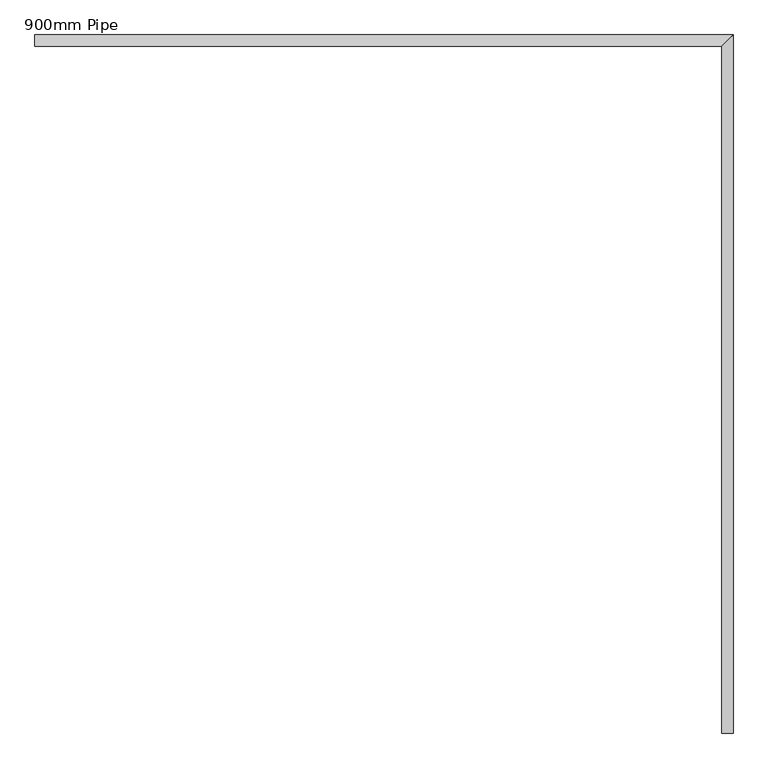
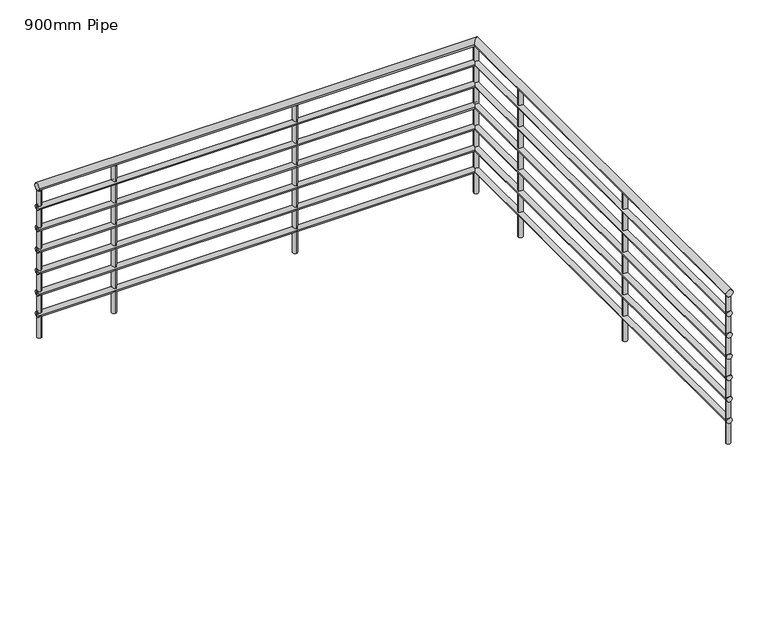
"""IFC4 building model written with IfcOpenShell, lengths in millimetres: railing geometry, 900mm Pipe."""

from ifc_helpers import new_model, si_unit, point, frame, frame_2d, origin, place, context, project, spatial, circle_curve, ellipse_curve, trimmed, segment, composite_curve, outline, extrude, source, transform, mapped, element, save
from ifc_brep_helpers import plane_surface, cylinder_surface, advanced_brep


def railing_900mm_pipe_a6d14da7(model_context):
    return source(origin(), model_context, "Body", "SolidModel", [
        advanced_brep(
        [(12022.918054, 339.8340505, 4130.0), (12062.918054, 339.8340505, 4130.0), (12022.918054, 2744.8340505, 4130.0), (12062.918054, 2784.8340505, 4130.0), (9617.918054, 2744.8340505, 4130.0), (9617.918054, 2784.8340505, 4130.0)],
        [
            (0, 1, circle_curve(frame((12042.918054, 339.8340505, 4130.0), z_axis=(0.0, -1.0, 0.0), x_axis=(1.0, 0.0, 0.0)), 20.0)),
            (1, 0, circle_curve(frame((12042.918054, 339.8340505, 4130.0), z_axis=(0.0, -1.0, 0.0), x_axis=(1.0, 0.0, 0.0)), 20.0)),
            (0, 2),
            (2, 3, ellipse_curve(frame((12042.918054, 2764.8340505, 4130.0), z_axis=(0.7071067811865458, -0.7071067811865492, 0.0), x_axis=(-0.7071067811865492, -0.7071067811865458, 0.0)), 28.2842712, 20.0)),
            (3, 1),
            (3, 2, ellipse_curve(frame((12042.918054, 2764.8340505, 4130.0), z_axis=(0.7071067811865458, -0.7071067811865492, 0.0), x_axis=(-0.7071067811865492, -0.7071067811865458, 0.0)), 28.2842712, 20.0)),
            (4, 5, circle_curve(frame((9617.918054, 2764.8340505, 4130.0), z_axis=(-1.0, 0.0, 0.0), x_axis=(0.0, 1.0, 0.0)), 20.0)),
            (5, 4, circle_curve(frame((9617.918054, 2764.8340505, 4130.0), z_axis=(-1.0, 0.0, 0.0), x_axis=(0.0, 1.0, 0.0)), 20.0)),
            (2, 4),
            (5, 3),
        ],
        [
            plane_surface(frame((12042.918054, 339.8340505, 4150.0), z_axis=(0.0, -1.0, 0.0), x_axis=(0.0, 0.0, 1.0))),
            cylinder_surface(frame((12042.918054, 339.8340505, 4130.0), z_axis=(0.0, -1.0, 0.0), x_axis=(1.0, 0.0, 0.0)), 20.0),
            plane_surface(frame((9617.918054, 2764.8340505, 4150.0), z_axis=(-1.0, 0.0, 0.0), x_axis=(0.0, -1.0, 0.0))),
            cylinder_surface(frame((12042.918054, 2764.8340505, 4130.0), z_axis=(1.0, 0.0, 0.0), x_axis=(0.0, 1.0, 0.0)), 20.0),
        ],
        [
            (0, [[1, 2]]),
            (1, [[-1, 3, 4, 5]]),
            (1, [[-2, -5, 6, -3]]),
            (2, [[7, 8]]),
            (3, [[-4, 9, -8, 10]]),
            (3, [[-6, -10, -7, -9]]),
        ],
    ),
        advanced_brep(
        [(12027.918054, 339.8340505, 4010.0), (12057.918054, 339.8340505, 4010.0), (12027.918054, 2749.8340505, 4010.0), (12057.918054, 2779.8340505, 4010.0), (9617.918054, 2749.8340505, 4010.0), (9617.918054, 2779.8340505, 4010.0)],
        [
            (0, 1, circle_curve(frame((12042.918054, 339.8340505, 4010.0), z_axis=(0.0, -1.0, 0.0), x_axis=(1.0, 0.0, 0.0)), 15.0)),
            (1, 0, circle_curve(frame((12042.918054, 339.8340505, 4010.0), z_axis=(0.0, -1.0, 0.0), x_axis=(1.0, 0.0, 0.0)), 15.0)),
            (0, 2),
            (2, 3, ellipse_curve(frame((12042.918054, 2764.8340505, 4010.0), z_axis=(0.7071067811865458, -0.7071067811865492, 0.0), x_axis=(-0.7071067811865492, -0.7071067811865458, 0.0)), 21.2132034, 15.0)),
            (3, 1),
            (3, 2, ellipse_curve(frame((12042.918054, 2764.8340505, 4010.0), z_axis=(0.7071067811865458, -0.7071067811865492, 0.0), x_axis=(-0.7071067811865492, -0.7071067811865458, 0.0)), 21.2132034, 15.0)),
            (4, 5, circle_curve(frame((9617.918054, 2764.8340505, 4010.0), z_axis=(-1.0, 0.0, 0.0), x_axis=(0.0, 1.0, 0.0)), 15.0)),
            (5, 4, circle_curve(frame((9617.918054, 2764.8340505, 4010.0), z_axis=(-1.0, 0.0, 0.0), x_axis=(0.0, 1.0, 0.0)), 15.0)),
            (2, 4),
            (5, 3),
        ],
        [
            plane_surface(frame((12042.918054, 339.8340505, 4025.0), z_axis=(0.0, -1.0, 0.0), x_axis=(0.0, 0.0, 1.0))),
            cylinder_surface(frame((12042.918054, 339.8340505, 4010.0), z_axis=(0.0, -1.0, 0.0), x_axis=(1.0, 0.0, 0.0)), 15.0),
            plane_surface(frame((9617.918054, 2764.8340505, 4025.0), z_axis=(-1.0, 0.0, 0.0), x_axis=(0.0, -1.0, 0.0))),
            cylinder_surface(frame((12042.918054, 2764.8340505, 4010.0), z_axis=(1.0, 0.0, 0.0), x_axis=(0.0, 1.0, 0.0)), 15.0),
        ],
        [
            (0, [[1, 2]]),
            (1, [[-1, 3, 4, 5]]),
            (1, [[-2, -5, 6, -3]]),
            (2, [[7, 8]]),
            (3, [[-4, 9, -8, 10]]),
            (3, [[-6, -10, -7, -9]]),
        ],
    ),
        advanced_brep(
        [(12027.918054, 339.8340505, 3885.0), (12057.918054, 339.8340505, 3885.0), (12027.918054, 2749.8340505, 3885.0), (12057.918054, 2779.8340505, 3885.0), (9617.918054, 2749.8340505, 3885.0), (9617.918054, 2779.8340505, 3885.0)],
        [
            (0, 1, circle_curve(frame((12042.918054, 339.8340505, 3885.0), z_axis=(0.0, -1.0, 0.0), x_axis=(1.0, 0.0, 0.0)), 15.0)),
            (1, 0, circle_curve(frame((12042.918054, 339.8340505, 3885.0), z_axis=(0.0, -1.0, 0.0), x_axis=(1.0, 0.0, 0.0)), 15.0)),
            (0, 2),
            (2, 3, ellipse_curve(frame((12042.918054, 2764.8340505, 3885.0), z_axis=(0.7071067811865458, -0.7071067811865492, 0.0), x_axis=(-0.7071067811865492, -0.7071067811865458, 0.0)), 21.2132034, 15.0)),
            (3, 1),
            (3, 2, ellipse_curve(frame((12042.918054, 2764.8340505, 3885.0), z_axis=(0.7071067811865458, -0.7071067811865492, 0.0), x_axis=(-0.7071067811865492, -0.7071067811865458, 0.0)), 21.2132034, 15.0)),
            (4, 5, circle_curve(frame((9617.918054, 2764.8340505, 3885.0), z_axis=(-1.0, 0.0, 0.0), x_axis=(0.0, 1.0, 0.0)), 15.0)),
            (5, 4, circle_curve(frame((9617.918054, 2764.8340505, 3885.0), z_axis=(-1.0, 0.0, 0.0), x_axis=(0.0, 1.0, 0.0)), 15.0)),
            (2, 4),
            (5, 3),
        ],
        [
            plane_surface(frame((12042.918054, 339.8340505, 3900.0), z_axis=(0.0, -1.0, 0.0), x_axis=(0.0, 0.0, 1.0))),
            cylinder_surface(frame((12042.918054, 339.8340505, 3885.0), z_axis=(0.0, -1.0, 0.0), x_axis=(1.0, 0.0, 0.0)), 15.0),
            plane_surface(frame((9617.918054, 2764.8340505, 3900.0), z_axis=(-1.0, 0.0, 0.0), x_axis=(0.0, -1.0, 0.0))),
            cylinder_surface(frame((12042.918054, 2764.8340505, 3885.0), z_axis=(1.0, 0.0, 0.0), x_axis=(0.0, 1.0, 0.0)), 15.0),
        ],
        [
            (0, [[1, 2]]),
            (1, [[-1, 3, 4, 5]]),
            (1, [[-2, -5, 6, -3]]),
            (2, [[7, 8]]),
            (3, [[-4, 9, -8, 10]]),
            (3, [[-6, -10, -7, -9]]),
        ],
    ),
        advanced_brep(
        [(12027.918054, 339.8340505, 3760.0), (12057.918054, 339.8340505, 3760.0), (12027.918054, 2749.8340505, 3760.0), (12057.918054, 2779.8340505, 3760.0), (9617.918054, 2749.8340505, 3760.0), (9617.918054, 2779.8340505, 3760.0)],
        [
            (0, 1, circle_curve(frame((12042.918054, 339.8340505, 3760.0), z_axis=(0.0, -1.0, 0.0), x_axis=(1.0, 0.0, 0.0)), 15.0)),
            (1, 0, circle_curve(frame((12042.918054, 339.8340505, 3760.0), z_axis=(0.0, -1.0, 0.0), x_axis=(1.0, 0.0, 0.0)), 15.0)),
            (0, 2),
            (2, 3, ellipse_curve(frame((12042.918054, 2764.8340505, 3760.0), z_axis=(0.7071067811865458, -0.7071067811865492, 0.0), x_axis=(-0.7071067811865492, -0.7071067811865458, 0.0)), 21.2132034, 15.0)),
            (3, 1),
            (3, 2, ellipse_curve(frame((12042.918054, 2764.8340505, 3760.0), z_axis=(0.7071067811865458, -0.7071067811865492, 0.0), x_axis=(-0.7071067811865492, -0.7071067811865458, 0.0)), 21.2132034, 15.0)),
            (4, 5, circle_curve(frame((9617.918054, 2764.8340505, 3760.0), z_axis=(-1.0, 0.0, 0.0), x_axis=(0.0, 1.0, 0.0)), 15.0)),
            (5, 4, circle_curve(frame((9617.918054, 2764.8340505, 3760.0), z_axis=(-1.0, 0.0, 0.0), x_axis=(0.0, 1.0, 0.0)), 15.0)),
            (2, 4),
            (5, 3),
        ],
        [
            plane_surface(frame((12042.918054, 339.8340505, 3775.0), z_axis=(0.0, -1.0, 0.0), x_axis=(0.0, 0.0, 1.0))),
            cylinder_surface(frame((12042.918054, 339.8340505, 3760.0), z_axis=(0.0, -1.0, 0.0), x_axis=(1.0, 0.0, 0.0)), 15.0),
            plane_surface(frame((9617.918054, 2764.8340505, 3775.0), z_axis=(-1.0, 0.0, 0.0), x_axis=(0.0, -1.0, 0.0))),
            cylinder_surface(frame((12042.918054, 2764.8340505, 3760.0), z_axis=(1.0, 0.0, 0.0), x_axis=(0.0, 1.0, 0.0)), 15.0),
        ],
        [
            (0, [[1, 2]]),
            (1, [[-1, 3, 4, 5]]),
            (1, [[-2, -5, 6, -3]]),
            (2, [[7, 8]]),
            (3, [[-4, 9, -8, 10]]),
            (3, [[-6, -10, -7, -9]]),
        ],
    ),
        advanced_brep(
        [(12027.918054, 339.8340505, 3635.0), (12057.918054, 339.8340505, 3635.0), (12027.918054, 2749.8340505, 3635.0), (12057.918054, 2779.8340505, 3635.0), (9617.918054, 2749.8340505, 3635.0), (9617.918054, 2779.8340505, 3635.0)],
        [
            (0, 1, circle_curve(frame((12042.918054, 339.8340505, 3635.0), z_axis=(0.0, -1.0, 0.0), x_axis=(1.0, 0.0, 0.0)), 15.0)),
            (1, 0, circle_curve(frame((12042.918054, 339.8340505, 3635.0), z_axis=(0.0, -1.0, 0.0), x_axis=(1.0, 0.0, 0.0)), 15.0)),
            (0, 2),
            (2, 3, ellipse_curve(frame((12042.918054, 2764.8340505, 3635.0), z_axis=(0.7071067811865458, -0.7071067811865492, 0.0), x_axis=(-0.7071067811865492, -0.7071067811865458, 0.0)), 21.2132034, 15.0)),
            (3, 1),
            (3, 2, ellipse_curve(frame((12042.918054, 2764.8340505, 3635.0), z_axis=(0.7071067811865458, -0.7071067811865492, 0.0), x_axis=(-0.7071067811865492, -0.7071067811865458, 0.0)), 21.2132034, 15.0)),
            (4, 5, circle_curve(frame((9617.918054, 2764.8340505, 3635.0), z_axis=(-1.0, 0.0, 0.0), x_axis=(0.0, 1.0, 0.0)), 15.0)),
            (5, 4, circle_curve(frame((9617.918054, 2764.8340505, 3635.0), z_axis=(-1.0, 0.0, 0.0), x_axis=(0.0, 1.0, 0.0)), 15.0)),
            (2, 4),
            (5, 3),
        ],
        [
            plane_surface(frame((12042.918054, 339.8340505, 3650.0), z_axis=(0.0, -1.0, 0.0), x_axis=(0.0, 0.0, 1.0))),
            cylinder_surface(frame((12042.918054, 339.8340505, 3635.0), z_axis=(0.0, -1.0, 0.0), x_axis=(1.0, 0.0, 0.0)), 15.0),
            plane_surface(frame((9617.918054, 2764.8340505, 3650.0), z_axis=(-1.0, 0.0, 0.0), x_axis=(0.0, -1.0, 0.0))),
            cylinder_surface(frame((12042.918054, 2764.8340505, 3635.0), z_axis=(1.0, 0.0, 0.0), x_axis=(0.0, 1.0, 0.0)), 15.0),
        ],
        [
            (0, [[1, 2]]),
            (1, [[-1, 3, 4, 5]]),
            (1, [[-2, -5, 6, -3]]),
            (2, [[7, 8]]),
            (3, [[-4, 9, -8, 10]]),
            (3, [[-6, -10, -7, -9]]),
        ],
    ),
        advanced_brep(
        [(12027.918054, 339.8340505, 3510.0), (12057.918054, 339.8340505, 3510.0), (12027.918054, 2749.8340505, 3510.0), (12057.918054, 2779.8340505, 3510.0), (9617.918054, 2749.8340505, 3510.0), (9617.918054, 2779.8340505, 3510.0)],
        [
            (0, 1, circle_curve(frame((12042.918054, 339.8340505, 3510.0), z_axis=(0.0, -1.0, 0.0), x_axis=(1.0, 0.0, 0.0)), 15.0)),
            (1, 0, circle_curve(frame((12042.918054, 339.8340505, 3510.0), z_axis=(0.0, -1.0, 0.0), x_axis=(1.0, 0.0, 0.0)), 15.0)),
            (0, 2),
            (2, 3, ellipse_curve(frame((12042.918054, 2764.8340505, 3510.0), z_axis=(0.7071067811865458, -0.7071067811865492, 0.0), x_axis=(-0.7071067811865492, -0.7071067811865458, 0.0)), 21.2132034, 15.0)),
            (3, 1),
            (3, 2, ellipse_curve(frame((12042.918054, 2764.8340505, 3510.0), z_axis=(0.7071067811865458, -0.7071067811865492, 0.0), x_axis=(-0.7071067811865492, -0.7071067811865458, 0.0)), 21.2132034, 15.0)),
            (4, 5, circle_curve(frame((9617.918054, 2764.8340505, 3510.0), z_axis=(-1.0, 0.0, 0.0), x_axis=(0.0, 1.0, 0.0)), 15.0)),
            (5, 4, circle_curve(frame((9617.918054, 2764.8340505, 3510.0), z_axis=(-1.0, 0.0, 0.0), x_axis=(0.0, 1.0, 0.0)), 15.0)),
            (2, 4),
            (5, 3),
        ],
        [
            plane_surface(frame((12042.918054, 339.8340505, 3525.0), z_axis=(0.0, -1.0, 0.0), x_axis=(0.0, 0.0, 1.0))),
            cylinder_surface(frame((12042.918054, 339.8340505, 3510.0), z_axis=(0.0, -1.0, 0.0), x_axis=(1.0, 0.0, 0.0)), 15.0),
            plane_surface(frame((9617.918054, 2764.8340505, 3525.0), z_axis=(-1.0, 0.0, 0.0), x_axis=(0.0, -1.0, 0.0))),
            cylinder_surface(frame((12042.918054, 2764.8340505, 3510.0), z_axis=(1.0, 0.0, 0.0), x_axis=(0.0, 1.0, 0.0)), 15.0),
        ],
        [
            (0, [[1, 2]]),
            (1, [[-1, 3, 4, 5]]),
            (1, [[-2, -5, 6, -3]]),
            (2, [[7, 8]]),
            (3, [[-4, 9, -8, 10]]),
            (3, [[-6, -10, -7, -9]]),
        ],
    ),
        advanced_brep(
        [(12027.918054, 339.8340505, 3385.0), (12057.918054, 339.8340505, 3385.0), (12027.918054, 2749.8340505, 3385.0), (12057.918054, 2779.8340505, 3385.0), (9617.918054, 2749.8340505, 3385.0), (9617.918054, 2779.8340505, 3385.0)],
        [
            (0, 1, circle_curve(frame((12042.918054, 339.8340505, 3385.0), z_axis=(0.0, -1.0, 0.0), x_axis=(1.0, 0.0, 0.0)), 15.0)),
            (1, 0, circle_curve(frame((12042.918054, 339.8340505, 3385.0), z_axis=(0.0, -1.0, 0.0), x_axis=(1.0, 0.0, 0.0)), 15.0)),
            (0, 2),
            (2, 3, ellipse_curve(frame((12042.918054, 2764.8340505, 3385.0), z_axis=(0.7071067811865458, -0.7071067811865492, 0.0), x_axis=(-0.7071067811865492, -0.7071067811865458, 0.0)), 21.2132034, 15.0)),
            (3, 1),
            (3, 2, ellipse_curve(frame((12042.918054, 2764.8340505, 3385.0), z_axis=(0.7071067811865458, -0.7071067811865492, 0.0), x_axis=(-0.7071067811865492, -0.7071067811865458, 0.0)), 21.2132034, 15.0)),
            (4, 5, circle_curve(frame((9617.918054, 2764.8340505, 3385.0), z_axis=(-1.0, 0.0, 0.0), x_axis=(0.0, 1.0, 0.0)), 15.0)),
            (5, 4, circle_curve(frame((9617.918054, 2764.8340505, 3385.0), z_axis=(-1.0, 0.0, 0.0), x_axis=(0.0, 1.0, 0.0)), 15.0)),
            (2, 4),
            (5, 3),
        ],
        [
            plane_surface(frame((12042.918054, 339.8340505, 3400.0), z_axis=(0.0, -1.0, 0.0), x_axis=(0.0, 0.0, 1.0))),
            cylinder_surface(frame((12042.918054, 339.8340505, 3385.0), z_axis=(0.0, -1.0, 0.0), x_axis=(1.0, 0.0, 0.0)), 15.0),
            plane_surface(frame((9617.918054, 2764.8340505, 3400.0), z_axis=(-1.0, 0.0, 0.0), x_axis=(0.0, -1.0, 0.0))),
            cylinder_surface(frame((12042.918054, 2764.8340505, 3385.0), z_axis=(1.0, 0.0, 0.0), x_axis=(0.0, 1.0, 0.0)), 15.0),
        ],
        [
            (0, [[1, 2]]),
            (1, [[-1, 3, 4, 5]]),
            (1, [[-2, -5, 6, -3]]),
            (2, [[7, 8]]),
            (3, [[-4, 9, -8, 10]]),
            (3, [[-6, -10, -7, -9]]),
        ],
    ),
        extrude(outline(composite_curve([segment(trimmed(circle_curve(frame_2d((10042.918054, 2764.8340505)), 12.5), [point((10042.918054, 2752.3340505))], [point((10042.918054, 2777.3340505))], False, "CARTESIAN"), True, "CONTINUOUS"), segment(trimmed(circle_curve(frame_2d((10042.918054, 2764.8340505)), 12.5), [point((10042.918054, 2777.3340505))], [point((10042.918054, 2752.3340505))], False, "CARTESIAN"), True, "CONTINUOUS")], self_intersect=False)), frame((0.0, 0.0, 3250.0), z_axis=(0.0, 0.0, 1.0), x_axis=(1.0, 0.0, 0.0)), (0.0, 0.0, 1.0), 860.0),
        extrude(outline(composite_curve([segment(trimmed(circle_curve(frame_2d((11042.918054, 2764.8340505)), 12.5), [point((11042.918054, 2752.3340505))], [point((11042.918054, 2777.3340505))], False, "CARTESIAN"), True, "CONTINUOUS"), segment(trimmed(circle_curve(frame_2d((11042.918054, 2764.8340505)), 12.5), [point((11042.918054, 2777.3340505))], [point((11042.918054, 2752.3340505))], False, "CARTESIAN"), True, "CONTINUOUS")], self_intersect=False)), frame((0.0, 0.0, 3250.0), z_axis=(0.0, 0.0, 1.0), x_axis=(1.0, 0.0, 0.0)), (0.0, 0.0, 1.0), 860.0),
        extrude(outline(composite_curve([segment(trimmed(circle_curve(frame_2d((12042.918054, 2339.8340505)), 12.5), [point((12030.418054, 2339.8340505))], [point((12055.418054, 2339.8340505))], False, "CARTESIAN"), True, "CONTINUOUS"), segment(trimmed(circle_curve(frame_2d((12042.918054, 2339.8340505)), 12.5), [point((12055.418054, 2339.8340505))], [point((12030.418054, 2339.8340505))], False, "CARTESIAN"), True, "CONTINUOUS")], self_intersect=False)), frame((0.0, 0.0, 3250.0), z_axis=(0.0, 0.0, 1.0), x_axis=(1.0, 0.0, 0.0)), (0.0, 0.0, 1.0), 860.0),
        extrude(outline(composite_curve([segment(trimmed(circle_curve(frame_2d((12042.918054, 1339.8340505)), 12.5), [point((12030.418054, 1339.8340505))], [point((12055.418054, 1339.8340505))], False, "CARTESIAN"), True, "CONTINUOUS"), segment(trimmed(circle_curve(frame_2d((12042.918054, 1339.8340505)), 12.5), [point((12055.418054, 1339.8340505))], [point((12030.418054, 1339.8340505))], False, "CARTESIAN"), True, "CONTINUOUS")], self_intersect=False)), frame((0.0, 0.0, 3250.0), z_axis=(0.0, 0.0, 1.0), x_axis=(1.0, 0.0, 0.0)), (0.0, 0.0, 1.0), 860.0),
        extrude(outline(composite_curve([segment(trimmed(circle_curve(frame_2d((12042.918054, 2764.8340505)), 12.5), [point((12030.418054, 2764.8340505))], [point((12055.418054, 2764.8340505))], False, "CARTESIAN"), True, "CONTINUOUS"), segment(trimmed(circle_curve(frame_2d((12042.918054, 2764.8340505)), 12.5), [point((12055.418054, 2764.8340505))], [point((12030.418054, 2764.8340505))], False, "CARTESIAN"), True, "CONTINUOUS")], self_intersect=False)), frame((0.0, 0.0, 3250.0), z_axis=(0.0, 0.0, 1.0), x_axis=(1.0, 0.0, 0.0)), (0.0, 0.0, 1.0), 860.0),
        extrude(outline(composite_curve([segment(trimmed(circle_curve(frame_2d((9630.418054, 2764.8340505)), 12.5), [point((9630.418054, 2752.3340505))], [point((9630.418054, 2777.3340505))], False, "CARTESIAN"), True, "CONTINUOUS"), segment(trimmed(circle_curve(frame_2d((9630.418054, 2764.8340505)), 12.5), [point((9630.418054, 2777.3340505))], [point((9630.418054, 2752.3340505))], False, "CARTESIAN"), True, "CONTINUOUS")], self_intersect=False)), frame((0.0, 0.0, 3250.0), z_axis=(0.0, 0.0, 1.0), x_axis=(1.0, 0.0, 0.0)), (0.0, 0.0, 1.0), 860.0),
        extrude(outline(composite_curve([segment(trimmed(circle_curve(frame_2d((12042.918054, 352.3340505)), 12.5), [point((12030.418054, 352.3340505))], [point((12055.418054, 352.3340505))], False, "CARTESIAN"), True, "CONTINUOUS"), segment(trimmed(circle_curve(frame_2d((12042.918054, 352.3340505)), 12.5), [point((12055.418054, 352.3340505))], [point((12030.418054, 352.3340505))], False, "CARTESIAN"), True, "CONTINUOUS")], self_intersect=False)), frame((0.0, 0.0, 3250.0), z_axis=(0.0, 0.0, 1.0), x_axis=(1.0, 0.0, 0.0)), (0.0, 0.0, 1.0), 860.0),
    ])


if __name__ == "__main__":
    model = new_model("IFC4")
    model_context = context("Model", 3, world=origin())
    ifc_project = project(units=[si_unit("LENGTHUNIT", "METRE", prefix="MILLI")], contexts=[model_context])
    site = spatial("IfcSite", under=ifc_project)
    building = spatial("IfcBuilding", under=site)
    placement = place(None, origin())
    railing_900mm_pipe_shape = railing_900mm_pipe_a6d14da7(model_context)
    element("IfcRailing", 1, ObjectType="900mm Pipe", at=placement, inside=building, context=model_context, shape_type="MappedRepresentation", body=[
        mapped(railing_900mm_pipe_shape, transform((0.0, 0.0, 0.0), x_axis=(1.0, 0.0, 0.0), y_axis=(0.0, 1.0, 0.0), z_axis=(0.0, 0.0, 1.0))),
    ])
    save(model, "model.ifc")
